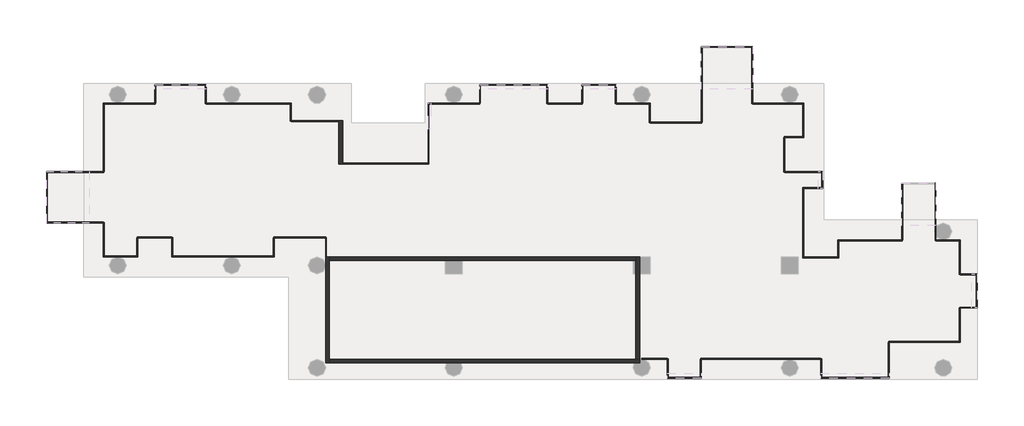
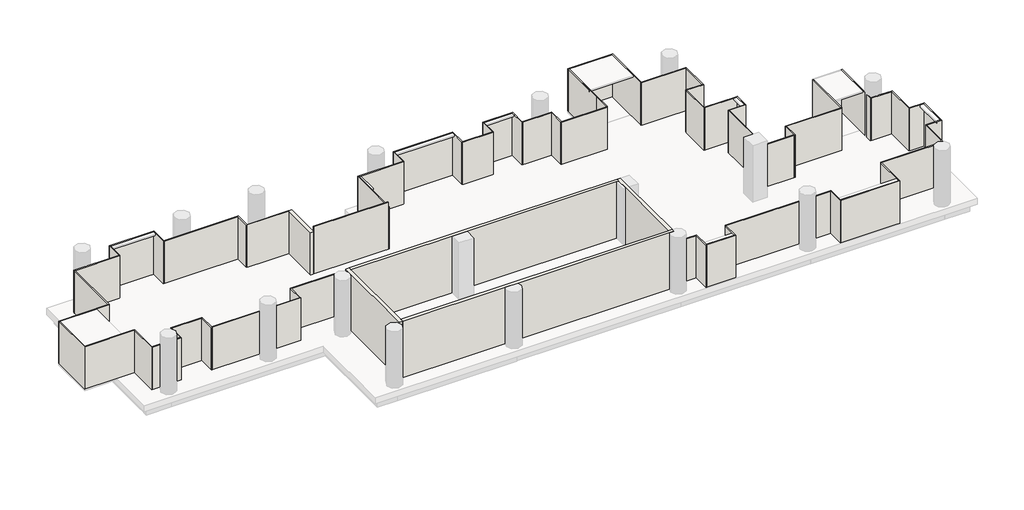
# One storey, part 1 of 2: 70 walls.
"""IFC4 building model written with IfcOpenShell, lengths in millimetres."""

from ifc_helpers import new_model, si_unit, frame, origin, place, context, project, spatial, polyline, outline, extrude, faceted_brep, element, save

model = new_model("IFC4")

# Units and contexts
model_context = context("Model", 3, world=origin())
ifc_project = project(units=[si_unit("LENGTHUNIT", "METRE", prefix="MILLI")], contexts=[model_context])

# Site, building, storey
site = spatial("IfcSite", under=ifc_project)
building = spatial("IfcBuilding", under=site)
storey = spatial("IfcBuildingStorey", under=building, Name="TW-L 16", Elevation=56799.9999686)

# Walls
placement = place(None, origin())
element("IfcWall", 1, ObjectType="AJN-ARC-CONCRETE WALL-20cm", at=placement, inside=storey, context=model_context, shape_type="Brep", body=[
    faceted_brep([(113050.0, 30750.0, 60399.9999686), (113050.0, 30750.0, 56799.9999686), (113050.0, 25150.0, 56799.9999686), (113050.0, 25150.0, 60399.9999686), (113250.0, 30750.0, 56799.9999686), (113250.0, 30750.0, 60399.9999686), (113250.0, 30550.0, 60399.9999686), (113250.0, 25350.0, 60399.9999686), (113250.0, 25150.0, 60399.9999686), (113250.0, 25150.0, 56799.9999686), (113250.0, 25350.0, 56799.9999686), (113250.0, 30550.0, 56799.9999686), (113097.1743518, 30750.0, 56799.9999686)], [[[0, 1, 2, 3]], [[4, 5, 6, 7, 8, 9, 10, 11]], [[2, 1, 12, 4, 11, 10, 9]], [[0, 3, 8, 7, 6, 5]], [[3, 2, 9, 8]], [[0, 5, 4, 12, 1]]]),
])
element("IfcWall", 2, ObjectType="AJN-ARC-CONCRETE WALL-20cm", at=placement, inside=storey, context=model_context, shape_type="Brep", body=[
    faceted_brep([(113250.0, 25150.0, 56799.9999686), (119425.8342613, 25150.0, 56799.9999686), (120174.1657387, 25150.0, 56799.9999686), (129325.8342613, 25150.0, 56799.9999686), (129600.0, 25150.0, 56799.9999686), (129600.0, 25150.0, 60399.9999686), (129325.8342613, 25150.0, 60399.9999686), (120174.1657387, 25150.0, 60399.9999686), (119425.8342613, 25150.0, 60399.9999686), (113250.0, 25150.0, 60399.9999686), (113250.0, 25350.0, 56799.9999686), (113250.0, 25350.0, 60399.9999686), (129400.0, 25350.0, 60399.9999686), (129600.0, 25350.0, 60399.9999686), (129600.0, 25350.0, 56799.9999686), (129400.0, 25350.0, 56799.9999686), (129600.0, 25338.7482194, 56799.9999686), (129600.0, 25338.7482194, 60399.9999686)], [[[0, 1, 2, 3, 4, 5, 6, 7, 8, 9]], [[10, 11, 12, 13, 14, 15]], [[4, 3, 2, 1, 0, 10, 15, 14, 16]], [[9, 8, 7, 6, 5, 17, 13, 12, 11]], [[5, 4, 16, 14, 13, 17]], [[0, 9, 11, 10]]]),
])
element("IfcWall", 3, ObjectType="AJN-ARC-CONCRETE WALL-20cm", at=placement, inside=storey, context=model_context, shape_type="Brep", body=[
    faceted_brep([(129600.0, 25350.0, 56799.9999686), (129600.0, 29850.0, 56799.9999686), (129600.0, 30750.0, 56799.9999686), (129600.0, 30750.0, 60399.9999686), (129600.0, 29850.0, 60399.9999686), (129600.0, 25350.0, 60399.9999686), (129400.0, 25350.0, 56799.9999686), (129400.0, 25350.0, 60399.9999686), (129400.0, 29850.0, 60399.9999686), (129400.0, 30550.0, 60399.9999686), (129400.0, 30750.0, 60399.9999686), (129400.0, 30750.0, 56799.9999686), (129400.0, 30550.0, 56799.9999686), (129400.0, 29850.0, 56799.9999686)], [[[0, 1, 2, 3, 4, 5]], [[6, 7, 8, 9, 10, 11, 12, 13]], [[2, 1, 0, 6, 13, 12, 11]], [[5, 4, 3, 10, 9, 8, 7]], [[3, 2, 11, 10]], [[0, 5, 7, 6]]]),
])
element("IfcWall", 4, ObjectType="AJN-ARC-CONCRETE WALL-20cm", at=placement, inside=storey, context=model_context, shape_type="Brep", body=[
    faceted_brep([(129400.0, 30750.0, 56799.9999686), (113250.0, 30750.0, 56799.9999686), (113250.0, 30750.0, 60399.9999686), (129400.0, 30750.0, 60399.9999686), (129400.0, 30550.0, 56799.9999686), (129400.0, 30550.0, 60399.9999686), (129250.0, 30550.0, 60399.9999686), (120250.0, 30550.0, 60399.9999686), (119350.0, 30550.0, 60399.9999686), (113250.0, 30550.0, 60399.9999686), (113250.0, 30550.0, 56799.9999686), (119350.0, 30550.0, 56799.9999686), (120250.0, 30550.0, 56799.9999686), (129250.0, 30550.0, 56799.9999686)], [[[0, 1, 2, 3]], [[4, 5, 6, 7, 8, 9, 10, 11, 12, 13]], [[1, 0, 4, 13, 12, 11, 10]], [[3, 2, 9, 8, 7, 6, 5]], [[0, 3, 5, 4]], [[1, 10, 9, 2]]]),
])
element("IfcWall", 5, ObjectType="AJN-ARC-CONCRETE WALL-20cm", at=placement, inside=storey, context=model_context, shape_type="Brep", body=[
    faceted_brep([(113950.0, 35650.0, 56799.9999686), (113950.0, 37950.0, 56799.9999686), (113950.0, 37950.0, 59499.9999686), (113950.0, 35650.0, 59499.9999686), (113750.0, 35650.0, 56799.9999686), (113750.0, 35650.0, 59499.9999686), (113750.0, 37900.0, 59499.9999686), (113750.0, 37950.0, 59499.9999686), (113750.0, 37950.0, 56799.9999686), (113750.0, 37900.0, 56799.9999686)], [[[0, 1, 2, 3]], [[4, 5, 6, 7, 8, 9]], [[1, 0, 4, 9, 8]], [[3, 2, 7, 6, 5]], [[0, 3, 5, 4]], [[2, 1, 8, 7]]]),
])
element("IfcWall", 6, ObjectType="AJN-ARC-GLASS-50mm", at=placement, inside=storey, context=model_context, shape_type="SweptSolid", body=[
    extrude(outline(polyline([(111250.0, 37950.0), (113750.0, 37950.0), (113750.0, 37900.0), (111250.0, 37900.0), (111250.0, 37950.0)])), frame((0.0, 0.0, 56799.9999686), z_axis=(0.0, 0.0, 1.0), x_axis=(1.0, 0.0, 0.0)), (0.0, 0.0, 1.0), 2700.0),
])
element("IfcWall", 7, ObjectType="AJN-ARC-GLASS-50mm", at=placement, inside=storey, context=model_context, shape_type="Brep", body=[
    faceted_brep([(111250.0, 37925.0, 56799.9999686), (111250.0, 38850.00036, 56799.9999686), (111250.0, 38850.00036, 59499.9999686), (111250.0, 37925.0, 59499.9999686), (111200.0, 37925.0, 56799.9999686), (111200.0, 37925.0, 59499.9999686), (111200.0, 38800.000356, 59499.9999686), (111200.0, 38850.000356, 59499.9999686), (111200.0, 38850.000356, 56799.9999686), (111200.0, 38800.000356, 56799.9999686)], [[[0, 1, 2, 3]], [[4, 5, 6, 7, 8, 9]], [[1, 0, 4, 9, 8]], [[3, 2, 7, 6, 5]], [[0, 3, 5, 4]], [[2, 1, 8, 7]]]),
])
element("IfcWall", 8, ObjectType="AJN-ARC-GLASS-50mm", at=placement, inside=storey, context=model_context, shape_type="SweptSolid", body=[
    extrude(outline(polyline([(106750.0, 38850.0), (111200.0, 38850.000356), (111200.0, 38800.000356), (106750.000004, 38800.0), (106750.0, 38850.0)])), frame((0.0, 0.0, 56799.9999686), z_axis=(0.0, 0.0, 1.0), x_axis=(1.0, 0.0, 0.0)), (0.0, 0.0, 1.0), 2700.0),
])
element("IfcWall", 9, ObjectType="AJN-ARC-GLASS-50mm", at=placement, inside=storey, context=model_context, shape_type="Brep", body=[
    faceted_brep([(106750.0, 38824.999998, 56799.9999686), (106750.0, 39850.0, 56799.9999686), (106750.0, 39850.0, 59499.9999686), (106750.0, 38824.999998, 59499.9999686), (106700.0, 38824.999998, 56799.9999686), (106700.0, 38824.999998, 59499.9999686), (106700.0, 39800.0, 59499.9999686), (106700.0, 39850.0, 59499.9999686), (106700.0, 39850.0, 56799.9999686), (106700.0, 39800.0, 56799.9999686)], [[[0, 1, 2, 3]], [[4, 5, 6, 7, 8, 9]], [[1, 0, 4, 9, 8]], [[3, 2, 7, 6, 5]], [[0, 3, 5, 4]], [[2, 1, 8, 7]]]),
])
element("IfcWall", 10, ObjectType="AJN-ARC-GLASS-50mm", at=placement, inside=storey, context=model_context, shape_type="Brep", body=[
    faceted_brep([(106700.0, 39850.0, 56799.9999686), (104050.0, 39850.0, 56799.9999686), (104050.0, 39850.0, 59499.9999686), (106700.0, 39850.0, 59499.9999686), (106700.0, 39800.0, 56799.9999686), (106700.0, 39800.0, 59499.9999686), (104100.0, 39800.0, 59499.9999686), (104050.0, 39800.0, 59499.9999686), (104050.0, 39800.0, 56799.9999686), (104100.0, 39800.0, 56799.9999686)], [[[0, 1, 2, 3]], [[4, 5, 6, 7, 8, 9]], [[1, 0, 4, 9, 8]], [[3, 2, 7, 6, 5]], [[2, 1, 8, 7]], [[0, 3, 5, 4]]]),
])
element("IfcWall", 11, ObjectType="AJN-ARC-GLASS-50mm", at=placement, inside=storey, context=model_context, shape_type="SweptSolid", body=[
    extrude(outline(polyline([(104050.0, 38850.0), (104050.0, 39800.0), (104100.0, 39800.0), (104100.0, 38850.0), (104050.0, 38850.0)])), frame((0.0, 0.0, 56799.9999686), z_axis=(0.0, 0.0, 1.0), x_axis=(1.0, 0.0, 0.0)), (0.0, 0.0, 1.0), 2700.0),
])
element("IfcWall", 12, ObjectType="AJN-ARC-GLASS-50mm", at=placement, inside=storey, context=model_context, shape_type="Brep", body=[
    faceted_brep([(104075.0000107, 38849.9999893, 56799.9999686), (101347.1743518, 38850.001152, 56799.9999686), (101347.1743518, 38850.001152, 59499.9999686), (104075.0000107, 38849.9999893, 59499.9999686), (104074.9999893, 38799.9999893, 56799.9999686), (104074.9999893, 38799.9999893, 59499.9999686), (101397.1743518, 38800.0011307, 59499.9999686), (101347.1743518, 38800.001152, 59499.9999686), (101347.1743518, 38800.001152, 56799.9999686), (101397.1743518, 38800.0011307, 56799.9999686)], [[[0, 1, 2, 3]], [[4, 5, 6, 7, 8, 9]], [[1, 0, 4, 9, 8]], [[3, 2, 7, 6, 5]], [[0, 3, 5, 4]], [[2, 1, 8, 7]]]),
])
element("IfcWall", 13, ObjectType="AJN-ARC-GLASS-50mm", at=placement, inside=storey, context=model_context, shape_type="SweptSolid", body=[
    extrude(outline(polyline([(101347.1743518, 35250.0), (101347.1743518, 38800.001152), (101397.1743518, 38800.0011307), (101397.1743518, 35250.0), (101347.1743518, 35250.0)])), frame((0.0, 0.0, 56799.9999686), z_axis=(0.0, 0.0, 1.0), x_axis=(1.0, 0.0, 0.0)), (0.0, 0.0, 1.0), 2700.0),
])
element("IfcWall", 14, ObjectType="AJN-ARC-GLASS-50mm", at=placement, inside=storey, context=model_context, shape_type="Brep", body=[
    faceted_brep([(101372.1743518, 35250.0, 56799.9999686), (98347.1743518, 35250.0, 56799.9999686), (98347.1743518, 35250.0, 59499.9999686), (101372.1743518, 35250.0, 59499.9999686), (101372.1743518, 35200.0, 56799.9999686), (101372.1743518, 35200.0, 59499.9999686), (98397.1743518, 35200.0, 59499.9999686), (98347.1743518, 35200.0, 59499.9999686), (98347.1743518, 35200.0, 56799.9999686), (98397.1743518, 35200.0, 56799.9999686)], [[[0, 1, 2, 3]], [[4, 5, 6, 7, 8, 9]], [[1, 0, 4, 9, 8]], [[3, 2, 7, 6, 5]], [[0, 3, 5, 4]], [[2, 1, 8, 7]]]),
])
element("IfcWall", 15, ObjectType="AJN-ARC-GLASS-50mm", at=placement, inside=storey, context=model_context, shape_type="Brep", body=[
    faceted_brep([(98347.1743518, 35200.0, 56799.9999686), (98347.1743518, 32550.0, 56799.9999686), (98347.1743518, 32550.0, 59499.9999686), (98347.1743518, 35200.0, 59499.9999686), (98397.1743518, 35200.0, 56799.9999686), (98397.1743518, 35200.0, 59499.9999686), (98397.1743518, 32600.0, 59499.9999686), (98397.1743518, 32550.0, 59499.9999686), (98397.1743518, 32550.0, 56799.9999686), (98397.1743518, 32600.0, 56799.9999686)], [[[0, 1, 2, 3]], [[4, 5, 6, 7, 8, 9]], [[1, 0, 4, 9, 8]], [[3, 2, 7, 6, 5]], [[2, 1, 8, 7]], [[0, 3, 5, 4]]]),
])
element("IfcWall", 16, ObjectType="AJN-ARC-GLASS-50mm", at=placement, inside=storey, context=model_context, shape_type="SweptSolid", body=[
    extrude(outline(polyline([(101347.1743518, 32550.0), (98397.1743518, 32550.0), (98397.1743518, 32600.0), (101347.1743518, 32600.0), (101347.1743518, 32550.0)])), frame((0.0, 0.0, 56799.9999686), z_axis=(0.0, 0.0, 1.0), x_axis=(1.0, 0.0, 0.0)), (0.0, 0.0, 1.0), 2700.0),
])
element("IfcWall", 17, ObjectType="AJN-ARC-GLASS-50mm", at=placement, inside=storey, context=model_context, shape_type="Brep", body=[
    faceted_brep([(101347.1743518, 32575.0, 56799.9999686), (101347.1743518, 30750.0, 56799.9999686), (101347.1743518, 30750.0, 59499.9999686), (101347.1743518, 32575.0, 59499.9999686), (101397.1743518, 32575.0, 56799.9999686), (101397.1743518, 32575.0, 59499.9999686), (101397.1743518, 30800.0, 59499.9999686), (101397.1743518, 30750.0, 59499.9999686), (101397.1743518, 30750.0, 56799.9999686), (101397.1743518, 30800.0, 56799.9999686)], [[[0, 1, 2, 3]], [[4, 5, 6, 7, 8, 9]], [[1, 0, 4, 9, 8]], [[3, 2, 7, 6, 5]], [[0, 3, 5, 4]], [[2, 1, 8, 7]]]),
])
element("IfcWall", 18, ObjectType="AJN-ARC-GLASS-50mm", at=placement, inside=storey, context=model_context, shape_type="Brep", body=[
    faceted_brep([(101397.1743518, 30750.0, 56799.9999686), (103147.1743518, 30750.0, 56799.9999686), (103147.1743518, 30750.0, 59499.9999686), (101397.1743518, 30750.0, 59499.9999686), (101397.1743518, 30800.0, 56799.9999686), (101397.1743518, 30800.0, 59499.9999686), (103097.1743518, 30800.0, 59499.9999686), (103147.1743518, 30800.0, 59499.9999686), (103147.1743518, 30800.0, 56799.9999686), (103097.1743518, 30800.0, 56799.9999686)], [[[0, 1, 2, 3]], [[4, 5, 6, 7, 8, 9]], [[1, 0, 4, 9, 8]], [[3, 2, 7, 6, 5]], [[2, 1, 8, 7]], [[0, 3, 5, 4]]]),
])
element("IfcWall", 19, ObjectType="AJN-ARC-GLASS-50mm", at=placement, inside=storey, context=model_context, shape_type="SweptSolid", body=[
    extrude(outline(polyline([(103147.1743518, 31750.0), (103147.1743518, 30800.0), (103097.1743518, 30800.0), (103097.1743518, 31750.0), (103147.1743518, 31750.0)])), frame((0.0, 0.0, 56799.9999686), z_axis=(0.0, 0.0, 1.0), x_axis=(1.0, 0.0, 0.0)), (0.0, 0.0, 1.0), 2700.0),
])
element("IfcWall", 20, ObjectType="AJN-ARC-GLASS-50mm", at=placement, inside=storey, context=model_context, shape_type="SweptSolid", body=[
    extrude(outline(polyline([(104947.1743518, 31750.0), (103122.1743518, 31750.0), (103122.1743518, 31800.0), (104947.1743518, 31800.0), (104947.1743518, 31750.0)])), frame((0.0, 0.0, 56799.9999686), z_axis=(0.0, 0.0, 1.0), x_axis=(1.0, 0.0, 0.0)), (0.0, 0.0, 1.0), 2700.0),
])
element("IfcWall", 21, ObjectType="AJN-ARC-GLASS-50mm", at=placement, inside=storey, context=model_context, shape_type="Brep", body=[
    faceted_brep([(104947.1743518, 31775.0, 56799.9999686), (104947.1743518, 30750.0, 56799.9999686), (104947.1743518, 30750.0, 59499.9999686), (104947.1743518, 31775.0, 59499.9999686), (104997.1743518, 31775.0, 56799.9999686), (104997.1743518, 31775.0, 59499.9999686), (104997.1743518, 30800.0, 59499.9999686), (104997.1743518, 30750.0, 59499.9999686), (104997.1743518, 30750.0, 56799.9999686), (104997.1743518, 30800.0, 56799.9999686)], [[[0, 1, 2, 3]], [[4, 5, 6, 7, 8, 9]], [[1, 0, 4, 9, 8]], [[3, 2, 7, 6, 5]], [[0, 3, 5, 4]], [[2, 1, 8, 7]]]),
])
element("IfcWall", 22, ObjectType="AJN-ARC-GLASS-50mm", at=placement, inside=storey, context=model_context, shape_type="Brep", body=[
    faceted_brep([(104997.1743518, 30750.0, 56799.9999686), (110347.1743518, 30750.0, 56799.9999686), (110347.1743518, 30750.0, 59499.9999686), (104997.1743518, 30750.0, 59499.9999686), (104997.1743518, 30800.0, 56799.9999686), (104997.1743518, 30800.0, 59499.9999686), (110297.1743518, 30800.0, 59499.9999686), (110347.1743518, 30800.0, 59499.9999686), (110347.1743518, 30800.0, 56799.9999686), (110297.1743518, 30800.0, 56799.9999686)], [[[0, 1, 2, 3]], [[4, 5, 6, 7, 8, 9]], [[1, 0, 4, 9, 8]], [[3, 2, 7, 6, 5]], [[2, 1, 8, 7]], [[0, 3, 5, 4]]]),
])
element("IfcWall", 23, ObjectType="AJN-ARC-GLASS-50mm", at=placement, inside=storey, context=model_context, shape_type="SweptSolid", body=[
    extrude(outline(polyline([(110347.1743518, 31750.0), (110347.1743518, 30800.0), (110297.1743518, 30800.0), (110297.1743518, 31750.0), (110347.1743518, 31750.0)])), frame((0.0, 0.0, 56799.9999686), z_axis=(0.0, 0.0, 1.0), x_axis=(1.0, 0.0, 0.0)), (0.0, 0.0, 1.0), 2700.0),
])
element("IfcWall", 24, ObjectType="AJN-ARC-GLASS-50mm", at=placement, inside=storey, context=model_context, shape_type="SweptSolid", body=[
    extrude(outline(polyline([(113047.1743518, 31750.0), (110322.1743518, 31750.0), (110322.1743518, 31800.0), (113047.1743518, 31800.0), (113047.1743518, 31750.0)])), frame((0.0, 0.0, 56799.9999686), z_axis=(0.0, 0.0, 1.0), x_axis=(1.0, 0.0, 0.0)), (0.0, 0.0, 1.0), 2700.0),
])
element("IfcWall", 25, ObjectType="AJN-ARC-GLASS-50mm", at=placement, inside=storey, context=model_context, shape_type="Brep", body=[
    faceted_brep([(113047.1743518, 31775.0, 56799.9999686), (113047.1743518, 30750.0, 56799.9999686), (113047.1743518, 30750.0, 59499.9999686), (113047.1743518, 31775.0, 59499.9999686), (113097.1743518, 31775.0, 56799.9999686), (113097.1743518, 31775.0, 59499.9999686), (113097.1743518, 30750.0, 59499.9999686), (113097.1743518, 30750.0, 56799.9999686), (113050.0, 30750.0, 56799.9999686)], [[[0, 1, 2, 3]], [[4, 5, 6, 7]], [[1, 0, 4, 7, 8]], [[3, 2, 6, 5]], [[0, 3, 5, 4]], [[2, 1, 8, 7, 6]]]),
])
element("IfcWall", 26, ObjectType="AJN-ARC-GLASS-50mm", at=placement, inside=storey, context=model_context, shape_type="Brep", body=[
    faceted_brep([(138250.0, 30700.0, 56799.9999686), (138250.0, 30750.0, 56799.9999686), (138250.0, 34350.0, 56799.9999686), (138250.0, 34350.0, 59499.9999686), (138250.0, 30750.0, 59499.9999686), (138250.0, 30700.0, 59499.9999686), (138200.0, 30700.0, 56799.9999686), (138200.0, 30700.0, 59499.9999686), (138200.0, 34350.0, 59499.9999686), (138200.0, 34350.0, 56799.9999686)], [[[0, 1, 2, 3, 4, 5]], [[6, 7, 8, 9]], [[2, 1, 0, 6, 9]], [[5, 4, 3, 8, 7]], [[0, 5, 7, 6]], [[3, 2, 9, 8]]]),
])
element("IfcWall", 27, ObjectType="AJN-ARC-GLASS-50mm", at=placement, inside=storey, context=model_context, shape_type="Brep", body=[
    faceted_brep([(138200.0, 34350.0, 56799.9999686), (138250.0, 34350.0, 56799.9999686), (139250.0, 34350.0, 56799.9999686), (139250.0, 34350.0, 59499.9999686), (138250.0, 34350.0, 59499.9999686), (138200.0, 34350.0, 59499.9999686), (138200.0, 34400.0, 56799.9999686), (138200.0, 34400.0, 59499.9999686), (139200.0, 34400.0, 59499.9999686), (139250.0, 34400.0, 59499.9999686), (139250.0, 34400.0, 56799.9999686), (139200.0, 34400.0, 56799.9999686)], [[[0, 1, 2, 3, 4, 5]], [[6, 7, 8, 9, 10, 11]], [[2, 1, 0, 6, 11, 10]], [[5, 4, 3, 9, 8, 7]], [[3, 2, 10, 9]], [[0, 5, 7, 6]]]),
])
element("IfcWall", 28, ObjectType="AJN-ARC-GLASS-50mm", at=placement, inside=storey, context=model_context, shape_type="Brep", body=[
    faceted_brep([(139250.0, 34400.0, 56799.9999686), (139250.0, 35250.0, 56799.9999686), (139250.0, 35250.0, 59499.9999686), (139250.0, 34400.0, 59499.9999686), (139200.0, 34400.0, 56799.9999686), (139200.0, 34400.0, 59499.9999686), (139200.0, 35200.0, 59499.9999686), (139200.0, 35250.0, 59499.9999686), (139200.0, 35250.0, 56799.9999686), (139200.0, 35200.0, 56799.9999686)], [[[0, 1, 2, 3]], [[4, 5, 6, 7, 8, 9]], [[1, 0, 4, 9, 8]], [[3, 2, 7, 6, 5]], [[2, 1, 8, 7]], [[0, 3, 5, 4]]]),
])
element("IfcWall", 29, ObjectType="AJN-ARC-GLASS-50mm", at=placement, inside=storey, context=model_context, shape_type="SweptSolid", body=[
    extrude(outline(polyline([(137246.9852535, 35250.0), (139200.0, 35250.0), (139200.0, 35200.0), (137246.9852535, 35200.0), (137246.9852535, 35250.0)])), frame((0.0, 0.0, 56799.9999686), z_axis=(0.0, 0.0, 1.0), x_axis=(1.0, 0.0, 0.0)), (0.0, 0.0, 1.0), 2700.0),
])
element("IfcWall", 30, ObjectType="AJN-ARC-GLASS-50mm", at=placement, inside=storey, context=model_context, shape_type="SweptSolid", body=[
    extrude(outline(polyline([(137246.9852535, 37050.0), (137246.9852535, 35225.0), (137196.9852535, 35225.0), (137196.9852535, 37050.0), (137246.9852535, 37050.0)])), frame((0.0, 0.0, 56799.9999686), z_axis=(0.0, 0.0, 1.0), x_axis=(1.0, 0.0, 0.0)), (0.0, 0.0, 1.0), 2700.0),
])
element("IfcWall", 31, ObjectType="AJN-ARC-GLASS-50mm", at=placement, inside=storey, context=model_context, shape_type="Brep", body=[
    faceted_brep([(137221.9852535, 37050.0, 56799.9999686), (138250.0, 37050.0, 56799.9999686), (138250.0, 37050.0, 59499.9999686), (137221.9852535, 37050.0, 59499.9999686), (137221.9852535, 37100.0, 56799.9999686), (137221.9852535, 37100.0, 59499.9999686), (138200.0, 37100.0, 59499.9999686), (138250.0, 37100.0, 59499.9999686), (138250.0, 37100.0, 56799.9999686), (138200.0, 37100.0, 56799.9999686)], [[[0, 1, 2, 3]], [[4, 5, 6, 7, 8, 9]], [[1, 0, 4, 9, 8]], [[3, 2, 7, 6, 5]], [[0, 3, 5, 4]], [[2, 1, 8, 7]]]),
])
element("IfcWall", 32, ObjectType="AJN-ARC-GLASS-50mm", at=placement, inside=storey, context=model_context, shape_type="Brep", body=[
    faceted_brep([(138250.0, 37100.0, 56799.9999686), (138250.0, 38850.0, 56799.9999686), (138250.0, 38850.0, 59499.9999686), (138250.0, 37100.0, 59499.9999686), (138200.0, 37100.0, 56799.9999686), (138200.0, 37100.0, 59499.9999686), (138200.0, 38800.0, 59499.9999686), (138200.0, 38850.0, 59499.9999686), (138200.0, 38850.0, 56799.9999686), (138200.0, 38800.0, 56799.9999686)], [[[0, 1, 2, 3]], [[4, 5, 6, 7, 8, 9]], [[1, 0, 4, 9, 8]], [[3, 2, 7, 6, 5]], [[2, 1, 8, 7]], [[0, 3, 5, 4]]]),
])
element("IfcWall", 33, ObjectType="AJN-ARC-GLASS-50mm", at=placement, inside=storey, context=model_context, shape_type="SweptSolid", body=[
    extrude(outline(polyline([(135550.0, 38850.0), (138200.0, 38850.0), (138200.0, 38800.0), (135550.0, 38800.0), (135550.0, 38850.0)])), frame((0.0, 0.0, 56799.9999686), z_axis=(0.0, 0.0, 1.0), x_axis=(1.0, 0.0, 0.0)), (0.0, 0.0, 1.0), 2700.0),
])
element("IfcWall", 34, ObjectType="AJN-ARC-GLASS-50mm", at=placement, inside=storey, context=model_context, shape_type="Brep", body=[
    faceted_brep([(135550.0, 38825.0, 56799.9999686), (135550.0, 41850.0, 56799.9999686), (135550.0, 41850.0, 59499.9999686), (135550.0, 38825.0, 59499.9999686), (135500.0, 38825.0, 56799.9999686), (135500.0, 38825.0, 59499.9999686), (135500.0, 41800.0, 59499.9999686), (135500.0, 41850.0, 59499.9999686), (135500.0, 41850.0, 56799.9999686), (135500.0, 41800.0, 56799.9999686)], [[[0, 1, 2, 3]], [[4, 5, 6, 7, 8, 9]], [[1, 0, 4, 9, 8]], [[3, 2, 7, 6, 5]], [[0, 3, 5, 4]], [[2, 1, 8, 7]]]),
])
element("IfcWall", 35, ObjectType="AJN-ARC-GLASS-50mm", at=placement, inside=storey, context=model_context, shape_type="Brep", body=[
    faceted_brep([(135500.0, 41850.0, 56799.9999686), (132850.0, 41850.0, 56799.9999686), (132850.0, 41850.0, 59499.9999686), (135500.0, 41850.0, 59499.9999686), (135500.0, 41800.0, 56799.9999686), (135500.0, 41800.0, 59499.9999686), (132900.0, 41800.0, 59499.9999686), (132850.0, 41800.0, 59499.9999686), (132850.0, 41800.0, 56799.9999686), (132900.0, 41800.0, 56799.9999686)], [[[0, 1, 2, 3]], [[4, 5, 6, 7, 8, 9]], [[1, 0, 4, 9, 8]], [[3, 2, 7, 6, 5]], [[2, 1, 8, 7]], [[0, 3, 5, 4]]]),
])
element("IfcWall", 36, ObjectType="AJN-ARC-GLASS-50mm", at=placement, inside=storey, context=model_context, shape_type="SweptSolid", body=[
    extrude(outline(polyline([(132850.0, 38850.0), (132850.0, 41800.0), (132900.0, 41800.0), (132900.0, 38850.0), (132850.0, 38850.0)])), frame((0.0, 0.0, 56799.9999686), z_axis=(0.0, 0.0, 1.0), x_axis=(1.0, 0.0, 0.0)), (0.0, 0.0, 1.0), 2700.0),
])
element("IfcWall", 37, ObjectType="AJN-ARC-GLASS-50mm", at=placement, inside=storey, context=model_context, shape_type="SweptSolid", body=[
    extrude(outline(polyline([(132850.0, 37850.0), (132850.0, 38850.0), (132900.0, 38850.0), (132900.0, 37850.0), (132850.0, 37850.0)])), frame((0.0, 0.0, 56799.9999686), z_axis=(0.0, 0.0, 1.0), x_axis=(1.0, 0.0, 0.0)), (0.0, 0.0, 1.0), 2700.0),
])
element("IfcWall", 38, ObjectType="AJN-ARC-GLASS-50mm", at=placement, inside=storey, context=model_context, shape_type="SweptSolid", body=[
    extrude(outline(polyline([(130150.0, 37850.0), (132875.0, 37850.0), (132875.0, 37800.0), (130150.0, 37800.0), (130150.0, 37850.0)])), frame((0.0, 0.0, 56799.9999686), z_axis=(0.0, 0.0, 1.0), x_axis=(1.0, 0.0, 0.0)), (0.0, 0.0, 1.0), 2700.0),
])
element("IfcWall", 39, ObjectType="AJN-ARC-GLASS-50mm", at=placement, inside=storey, context=model_context, shape_type="Brep", body=[
    faceted_brep([(130150.0, 37825.0, 56799.9999686), (130150.0, 38850.0, 56799.9999686), (130150.0, 38850.0, 59499.9999686), (130150.0, 37825.0, 59499.9999686), (130100.0, 37825.0, 56799.9999686), (130100.0, 37825.0, 59499.9999686), (130100.0, 38800.0, 59499.9999686), (130100.0, 38850.0, 59499.9999686), (130100.0, 38850.0, 56799.9999686), (130100.0, 38800.0, 56799.9999686)], [[[0, 1, 2, 3]], [[4, 5, 6, 7, 8, 9]], [[1, 0, 4, 9, 8]], [[3, 2, 7, 6, 5]], [[0, 3, 5, 4]], [[2, 1, 8, 7]]]),
])
element("IfcWall", 40, ObjectType="AJN-ARC-GLASS-50mm", at=placement, inside=storey, context=model_context, shape_type="SweptSolid", body=[
    extrude(outline(polyline([(128357.0344085, 38850.0), (130100.0, 38850.0), (130100.0, 38800.0), (128357.0344085, 38800.0), (128357.0344085, 38850.0)])), frame((0.0, 0.0, 56799.9999686), z_axis=(0.0, 0.0, 1.0), x_axis=(1.0, 0.0, 0.0)), (0.0, 0.0, 1.0), 2700.0),
])
element("IfcWall", 41, ObjectType="AJN-ARC-GLASS-50mm", at=placement, inside=storey, context=model_context, shape_type="Brep", body=[
    faceted_brep([(128357.0344085, 38825.0, 56799.9999686), (128357.0344085, 39850.0, 56799.9999686), (128357.0344085, 39850.0, 59499.9999686), (128357.0344085, 38825.0, 59499.9999686), (128307.0344085, 38825.0, 56799.9999686), (128307.0344085, 38825.0, 59499.9999686), (128307.0344085, 39800.0, 59499.9999686), (128307.0344085, 39850.0, 59499.9999686), (128307.0344085, 39850.0, 56799.9999686), (128307.0344085, 39800.0, 56799.9999686)], [[[0, 1, 2, 3]], [[4, 5, 6, 7, 8, 9]], [[1, 0, 4, 9, 8]], [[3, 2, 7, 6, 5]], [[0, 3, 5, 4]], [[2, 1, 8, 7]]]),
])
element("IfcWall", 42, ObjectType="AJN-ARC-GLASS-50mm", at=placement, inside=storey, context=model_context, shape_type="Brep", body=[
    faceted_brep([(128307.0344085, 39850.0, 56799.9999686), (126557.0344085, 39850.0, 56799.9999686), (126557.0344085, 39850.0, 59499.9999686), (128307.0344085, 39850.0, 59499.9999686), (128307.0344085, 39800.0, 56799.9999686), (128307.0344085, 39800.0, 59499.9999686), (126607.0344085, 39800.0, 59499.9999686), (126557.0344085, 39800.0, 59499.9999686), (126557.0344085, 39800.0, 56799.9999686), (126607.0344085, 39800.0, 56799.9999686)], [[[0, 1, 2, 3]], [[4, 5, 6, 7, 8, 9]], [[1, 0, 4, 9, 8]], [[3, 2, 7, 6, 5]], [[2, 1, 8, 7]], [[0, 3, 5, 4]]]),
])
element("IfcWall", 43, ObjectType="AJN-ARC-GLASS-50mm", at=placement, inside=storey, context=model_context, shape_type="SweptSolid", body=[
    extrude(outline(polyline([(126557.0344085, 38850.0), (126557.0344085, 39800.0), (126607.0344085, 39800.0), (126607.0344085, 38850.0), (126557.0344085, 38850.0)])), frame((0.0, 0.0, 56799.9999686), z_axis=(0.0, 0.0, 1.0), x_axis=(1.0, 0.0, 0.0)), (0.0, 0.0, 1.0), 2700.0),
])
element("IfcWall", 44, ObjectType="AJN-ARC-GLASS-50mm", at=placement, inside=storey, context=model_context, shape_type="SweptSolid", body=[
    extrude(outline(polyline([(124761.0540705, 38850.0), (126582.0344085, 38850.0), (126582.0344085, 38800.0), (124761.0540705, 38800.0), (124761.0540705, 38850.0)])), frame((0.0, 0.0, 56799.9999686), z_axis=(0.0, 0.0, 1.0), x_axis=(1.0, 0.0, 0.0)), (0.0, 0.0, 1.0), 2700.0),
])
element("IfcWall", 45, ObjectType="AJN-ARC-GLASS-50mm", at=placement, inside=storey, context=model_context, shape_type="Brep", body=[
    faceted_brep([(124761.0540705, 38825.0, 56799.9999686), (124761.0540705, 39850.0, 56799.9999686), (124761.0540705, 39850.0, 59499.9999686), (124761.0540705, 38825.0, 59499.9999686), (124711.0540705, 38825.0, 56799.9999686), (124711.0540705, 38825.0, 59499.9999686), (124711.0540705, 39800.0, 59499.9999686), (124711.0540705, 39850.0, 59499.9999686), (124711.0540705, 39850.0, 56799.9999686), (124711.0540705, 39800.0, 56799.9999686)], [[[0, 1, 2, 3]], [[4, 5, 6, 7, 8, 9]], [[1, 0, 4, 9, 8]], [[3, 2, 7, 6, 5]], [[0, 3, 5, 4]], [[2, 1, 8, 7]]]),
])
element("IfcWall", 46, ObjectType="AJN-ARC-GLASS-50mm", at=placement, inside=storey, context=model_context, shape_type="Brep", body=[
    faceted_brep([(124711.0540705, 39850.0, 56799.9999686), (121161.0540705, 39850.0, 56799.9999686), (121161.0540705, 39850.0, 59499.9999686), (124711.0540705, 39850.0, 59499.9999686), (124711.0540705, 39800.0, 56799.9999686), (124711.0540705, 39800.0, 59499.9999686), (121211.0540705, 39800.0, 59499.9999686), (121161.0540705, 39800.0, 59499.9999686), (121161.0540705, 39800.0, 56799.9999686), (121211.0540705, 39800.0, 56799.9999686)], [[[0, 1, 2, 3]], [[4, 5, 6, 7, 8, 9]], [[1, 0, 4, 9, 8]], [[3, 2, 7, 6, 5]], [[2, 1, 8, 7]], [[0, 3, 5, 4]]]),
])
element("IfcWall", 47, ObjectType="AJN-ARC-GLASS-50mm", at=placement, inside=storey, context=model_context, shape_type="SweptSolid", body=[
    extrude(outline(polyline([(121161.0540705, 38850.0), (121161.0540705, 39800.0), (121211.0540705, 39800.0), (121211.0540705, 38850.0), (121161.0540705, 38850.0)])), frame((0.0, 0.0, 56799.9999686), z_axis=(0.0, 0.0, 1.0), x_axis=(1.0, 0.0, 0.0)), (0.0, 0.0, 1.0), 2700.0),
])
element("IfcWall", 48, ObjectType="AJN-ARC-GLASS-50mm", at=placement, inside=storey, context=model_context, shape_type="Brep", body=[
    faceted_brep([(121186.0540705, 38850.0, 56799.9999686), (118450.0, 38850.0, 56799.9999686), (118450.0, 38850.0, 59499.9999686), (121186.0540705, 38850.0, 59499.9999686), (121186.0540705, 38800.0, 56799.9999686), (121186.0540705, 38800.0, 59499.9999686), (118500.0, 38800.0, 59499.9999686), (118450.0, 38800.0, 59499.9999686), (118450.0, 38800.0, 56799.9999686), (118500.0, 38800.0, 56799.9999686)], [[[0, 1, 2, 3]], [[4, 5, 6, 7, 8, 9]], [[1, 0, 4, 9, 8]], [[3, 2, 7, 6, 5]], [[0, 3, 5, 4]], [[2, 1, 8, 7]]]),
])
element("IfcWall", 49, ObjectType="AJN-ARC-GLASS-50mm", at=placement, inside=storey, context=model_context, shape_type="SweptSolid", body=[
    extrude(outline(polyline([(131050.3663867, 25350.0), (129714.068817, 25350.0), (129714.068817, 25400.0), (131050.3663867, 25400.0), (131050.3663867, 25350.0)])), frame((0.0, 0.0, 56799.9999686), z_axis=(0.0, 0.0, 1.0), x_axis=(1.0, 0.0, 0.0)), (0.0, 0.0, 1.0), 2700.0),
])
element("IfcWall", 50, ObjectType="AJN-ARC-GLASS-50mm", at=placement, inside=storey, context=model_context, shape_type="Brep", body=[
    faceted_brep([(131050.3663867, 25375.0, 56799.9999686), (131050.3663867, 24350.0, 56799.9999686), (131050.3663867, 24350.0, 59499.9999686), (131050.3663867, 25375.0, 59499.9999686), (131100.3663867, 25375.0, 56799.9999686), (131100.3663867, 25375.0, 59499.9999686), (131100.3663867, 24400.0, 59499.9999686), (131100.3663867, 24350.0, 59499.9999686), (131100.3663867, 24350.0, 56799.9999686), (131100.3663867, 24400.0, 56799.9999686)], [[[0, 1, 2, 3]], [[4, 5, 6, 7, 8, 9]], [[1, 0, 4, 9, 8]], [[3, 2, 7, 6, 5]], [[0, 3, 5, 4]], [[2, 1, 8, 7]]]),
])
element("IfcWall", 51, ObjectType="AJN-ARC-GLASS-50mm", at=placement, inside=storey, context=model_context, shape_type="Brep", body=[
    faceted_brep([(131100.3663867, 24350.0, 56799.9999686), (132850.3663867, 24350.0, 56799.9999686), (132850.3663867, 24350.0, 59499.9999686), (131100.3663867, 24350.0, 59499.9999686), (131100.3663867, 24400.0, 56799.9999686), (131100.3663867, 24400.0, 59499.9999686), (132800.3663867, 24400.0, 59499.9999686), (132850.3663867, 24400.0, 59499.9999686), (132850.3663867, 24400.0, 56799.9999686), (132800.3663867, 24400.0, 56799.9999686)], [[[0, 1, 2, 3]], [[4, 5, 6, 7, 8, 9]], [[1, 0, 4, 9, 8]], [[3, 2, 7, 6, 5]], [[2, 1, 8, 7]], [[0, 3, 5, 4]]]),
])
element("IfcWall", 52, ObjectType="AJN-ARC-GLASS-50mm", at=placement, inside=storey, context=model_context, shape_type="SweptSolid", body=[
    extrude(outline(polyline([(132850.3663867, 25350.0), (132850.3663867, 24400.0), (132800.3663867, 24400.0), (132800.3663867, 25350.0), (132850.3663867, 25350.0)])), frame((0.0, 0.0, 56799.9999686), z_axis=(0.0, 0.0, 1.0), x_axis=(1.0, 0.0, 0.0)), (0.0, 0.0, 1.0), 2700.0),
])
element("IfcWall", 53, ObjectType="AJN-ARC-GLASS-50mm", at=placement, inside=storey, context=model_context, shape_type="SweptSolid", body=[
    extrude(outline(polyline([(139150.4383953, 25350.0), (132825.3663867, 25350.0), (132825.3663867, 25400.0), (139150.4383953, 25400.0), (139150.4383953, 25350.0)])), frame((0.0, 0.0, 56799.9999686), z_axis=(0.0, 0.0, 1.0), x_axis=(1.0, 0.0, 0.0)), (0.0, 0.0, 1.0), 2700.0),
])
element("IfcWall", 54, ObjectType="AJN-ARC-GLASS-50mm", at=placement, inside=storey, context=model_context, shape_type="Brep", body=[
    faceted_brep([(139150.4383953, 25375.0, 56799.9999686), (139150.4383953, 24350.0, 56799.9999686), (139150.4383953, 24350.0, 59499.9999686), (139150.4383953, 25375.0, 59499.9999686), (139200.4383953, 25375.0, 56799.9999686), (139200.4383953, 25375.0, 59499.9999686), (139200.4383953, 24400.0, 59499.9999686), (139200.4383953, 24350.0, 59499.9999686), (139200.4383953, 24350.0, 56799.9999686), (139200.4383953, 24400.0, 56799.9999686)], [[[0, 1, 2, 3]], [[4, 5, 6, 7, 8, 9]], [[1, 0, 4, 9, 8]], [[3, 2, 7, 6, 5]], [[0, 3, 5, 4]], [[2, 1, 8, 7]]]),
])
element("IfcWall", 55, ObjectType="AJN-ARC-GLASS-50mm", at=placement, inside=storey, context=model_context, shape_type="Brep", body=[
    faceted_brep([(139200.4383953, 24350.0, 56799.9999686), (142750.4383953, 24350.0, 56799.9999686), (142750.4383953, 24350.0, 59499.9999686), (139200.4383953, 24350.0, 59499.9999686), (139200.4383953, 24400.0, 56799.9999686), (139200.4383953, 24400.0, 59499.9999686), (142700.4383953, 24400.0, 59499.9999686), (142750.4383953, 24400.0, 59499.9999686), (142750.4383953, 24400.0, 56799.9999686), (142700.4383953, 24400.0, 56799.9999686)], [[[0, 1, 2, 3]], [[4, 5, 6, 7, 8, 9]], [[1, 0, 4, 9, 8]], [[3, 2, 7, 6, 5]], [[2, 1, 8, 7]], [[0, 3, 5, 4]]]),
])
element("IfcWall", 56, ObjectType="AJN-ARC-GLASS-50mm", at=placement, inside=storey, context=model_context, shape_type="SweptSolid", body=[
    extrude(outline(polyline([(142750.4383953, 26250.0), (142750.4383953, 24400.0), (142700.4383953, 24400.0), (142700.4383953, 26250.0), (142750.4383953, 26250.0)])), frame((0.0, 0.0, 56799.9999686), z_axis=(0.0, 0.0, 1.0), x_axis=(1.0, 0.0, 0.0)), (0.0, 0.0, 1.0), 2700.0),
])
element("IfcWall", 57, ObjectType="AJN-ARC-GLASS-50mm", at=placement, inside=storey, context=model_context, shape_type="Brep", body=[
    faceted_brep([(142725.4383953, 26250.0, 56799.9999686), (146497.681474, 26250.0, 56799.9999686), (146497.681474, 26250.0, 59499.9999686), (142725.4383953, 26250.0, 59499.9999686), (142725.4383953, 26300.0, 56799.9999686), (142725.4383953, 26300.0, 59499.9999686), (146447.681474, 26300.0, 59499.9999686), (146497.681474, 26300.0, 59499.9999686), (146497.681474, 26300.0, 56799.9999686), (146447.681474, 26300.0, 56799.9999686)], [[[0, 1, 2, 3]], [[4, 5, 6, 7, 8, 9]], [[1, 0, 4, 9, 8]], [[3, 2, 7, 6, 5]], [[0, 3, 5, 4]], [[2, 1, 8, 7]]]),
])
element("IfcWall", 58, ObjectType="AJN-ARC-GLASS-50mm", at=placement, inside=storey, context=model_context, shape_type="SweptSolid", body=[
    extrude(outline(polyline([(146497.681474, 28048.7282176), (146497.681474, 26300.0), (146447.681474, 26300.0), (146447.681474, 28048.7282176), (146497.681474, 28048.7282176)])), frame((0.0, 0.0, 56799.9999686), z_axis=(0.0, 0.0, 1.0), x_axis=(1.0, 0.0, 0.0)), (0.0, 0.0, 1.0), 2700.0),
])
element("IfcWall", 59, ObjectType="AJN-ARC-GLASS-50mm", at=placement, inside=storey, context=model_context, shape_type="Brep", body=[
    faceted_brep([(146472.681474, 28048.7282176, 56799.9999686), (147397.681474, 28048.7282176, 56799.9999686), (147397.681474, 28048.7282176, 59499.9999686), (146472.681474, 28048.7282176, 59499.9999686), (146472.681474, 28098.7282176, 56799.9999686), (146472.681474, 28098.7282176, 59499.9999686), (147347.681474, 28098.7282176, 59499.9999686), (147397.681474, 28098.7282176, 59499.9999686), (147397.681474, 28098.7282176, 56799.9999686), (147347.681474, 28098.7282176, 56799.9999686)], [[[0, 1, 2, 3]], [[4, 5, 6, 7, 8, 9]], [[1, 0, 4, 9, 8]], [[3, 2, 7, 6, 5]], [[0, 3, 5, 4]], [[2, 1, 8, 7]]]),
])
element("IfcWall", 60, ObjectType="AJN-ARC-GLASS-50mm", at=placement, inside=storey, context=model_context, shape_type="Brep", body=[
    faceted_brep([(147397.681474, 28098.7282176, 56799.9999686), (147397.681474, 29848.7282176, 56799.9999686), (147397.681474, 29848.7282176, 59499.9999686), (147397.681474, 28098.7282176, 59499.9999686), (147347.681474, 28098.7282176, 56799.9999686), (147347.681474, 28098.7282176, 59499.9999686), (147347.681474, 29798.7282176, 59499.9999686), (147347.681474, 29848.7282176, 59499.9999686), (147347.681474, 29848.7282176, 56799.9999686), (147347.681474, 29798.7282176, 56799.9999686)], [[[0, 1, 2, 3]], [[4, 5, 6, 7, 8, 9]], [[1, 0, 4, 9, 8]], [[3, 2, 7, 6, 5]], [[2, 1, 8, 7]], [[0, 3, 5, 4]]]),
])
element("IfcWall", 61, ObjectType="AJN-ARC-GLASS-50mm", at=placement, inside=storey, context=model_context, shape_type="SweptSolid", body=[
    extrude(outline(polyline([(146497.681474, 29848.7282176), (147347.681474, 29848.7282176), (147347.681474, 29798.7282176), (146497.681474, 29798.7282176), (146497.681474, 29848.7282176)])), frame((0.0, 0.0, 56799.9999686), z_axis=(0.0, 0.0, 1.0), x_axis=(1.0, 0.0, 0.0)), (0.0, 0.0, 1.0), 2700.0),
])
element("IfcWall", 62, ObjectType="AJN-ARC-GLASS-50mm", at=placement, inside=storey, context=model_context, shape_type="Brep", body=[
    faceted_brep([(146497.681474, 29823.7282176, 56799.9999686), (146497.681474, 31651.6593424, 56799.9999686), (146497.681474, 31651.6593424, 59499.9999686), (146497.681474, 29823.7282176, 59499.9999686), (146447.681474, 29823.7282176, 56799.9999686), (146447.681474, 29823.7282176, 59499.9999686), (146447.681474, 31601.6593424, 59499.9999686), (146447.681474, 31651.6593424, 59499.9999686), (146447.681474, 31651.6593424, 56799.9999686), (146447.681474, 31601.6593424, 56799.9999686)], [[[0, 1, 2, 3]], [[4, 5, 6, 7, 8, 9]], [[1, 0, 4, 9, 8]], [[3, 2, 7, 6, 5]], [[0, 3, 5, 4]], [[2, 1, 8, 7]]]),
])
element("IfcWall", 63, ObjectType="AJN-ARC-GLASS-50mm", at=placement, inside=storey, context=model_context, shape_type="Brep", body=[
    faceted_brep([(146447.681474, 31651.6593424, 56799.9999686), (145638.6089983, 31651.6593424, 56799.9999686), (145561.3910017, 31651.6593424, 56799.9999686), (145214.068817, 31651.6593424, 56799.9999686), (145214.068817, 31651.6593424, 59499.9999686), (145561.3910017, 31651.6593424, 59499.9999686), (145638.6089983, 31651.6593424, 59499.9999686), (146447.681474, 31651.6593424, 59499.9999686), (146447.681474, 31601.6593424, 56799.9999686), (146447.681474, 31601.6593424, 59499.9999686), (145214.068817, 31601.6593424, 59499.9999686), (145214.068817, 31601.6593424, 56799.9999686)], [[[0, 1, 2, 3, 4, 5, 6, 7]], [[8, 9, 10, 11]], [[3, 2, 1, 0, 8, 11]], [[4, 3, 11, 10]], [[7, 6, 5, 4, 10, 9]], [[0, 7, 9, 8]]]),
])
element("IfcWall", 64, ObjectType="AJN-ARC-GLASS-50mm", at=placement, inside=storey, context=model_context, shape_type="Brep", body=[
    faceted_brep([(145214.068817, 31626.6593424, 56799.9999686), (145214.068817, 31868.5758828, 56799.9999686), (145214.068817, 32331.4241172, 56799.9999686), (145214.068817, 34651.6593424, 56799.9999686), (145214.068817, 34651.6593424, 59499.9999686), (145214.068817, 32331.4241172, 59499.9999686), (145214.068817, 31868.5758828, 59499.9999686), (145214.068817, 31626.6593424, 59499.9999686), (145164.068817, 31626.6593424, 56799.9999686), (145164.068817, 31626.6593424, 59499.9999686), (145164.068817, 31988.3576975, 59499.9999686), (145164.068817, 32211.6423025, 59499.9999686), (145164.068817, 34601.6593424, 59499.9999686), (145164.068817, 34651.6593424, 59499.9999686), (145164.068817, 34651.6593424, 56799.9999686), (145164.068817, 34601.6593424, 56799.9999686), (145164.068817, 32211.6423025, 56799.9999686), (145164.068817, 31988.3576975, 56799.9999686)], [[[0, 1, 2, 3, 4, 5, 6, 7]], [[8, 9, 10, 11, 12, 13, 14, 15, 16, 17]], [[3, 2, 1, 0, 8, 17, 16, 15, 14]], [[7, 6, 5, 4, 13, 12, 11, 10, 9]], [[0, 7, 9, 8]], [[4, 3, 14, 13]]]),
])
element("IfcWall", 65, ObjectType="AJN-ARC-GLASS-50mm", at=placement, inside=storey, context=model_context, shape_type="SweptSolid", body=[
    extrude(outline(polyline([(143414.068817, 31651.6593424), (143414.068817, 34601.6593424), (143464.068817, 34601.6593424), (143464.068817, 31651.6593424), (143414.068817, 31651.6593424)])), frame((0.0, 0.0, 56799.9999686), z_axis=(0.0, 0.0, 1.0), x_axis=(1.0, 0.0, 0.0)), (0.0, 0.0, 1.0), 2700.0),
])
element("IfcWall", 66, ObjectType="AJN-ARC-GLASS-50mm", at=placement, inside=storey, context=model_context, shape_type="Brep", body=[
    faceted_brep([(143439.068817, 31651.6593424, 56799.9999686), (140050.0, 31651.6593424, 56799.9999686), (140050.0, 31651.6593424, 59499.9999686), (143439.068817, 31651.6593424, 59499.9999686), (143439.068817, 31601.6593424, 56799.9999686), (143439.068817, 31601.6593424, 59499.9999686), (140100.0, 31601.6593424, 59499.9999686), (140050.0, 31601.6593424, 59499.9999686), (140050.0, 31601.6593424, 56799.9999686), (140100.0, 31601.6593424, 56799.9999686)], [[[0, 1, 2, 3]], [[4, 5, 6, 7, 8, 9]], [[1, 0, 4, 9, 8]], [[3, 2, 7, 6, 5]], [[0, 3, 5, 4]], [[2, 1, 8, 7]]]),
])
element("IfcWall", 67, ObjectType="AJN-ARC-GLASS-50mm", at=placement, inside=storey, context=model_context, shape_type="Brep", body=[
    faceted_brep([(140050.0, 31601.6593424, 56799.9999686), (140050.0, 30750.0, 56799.9999686), (140050.0, 30700.0, 56799.9999686), (140050.0, 30700.0, 59499.9999686), (140050.0, 30750.0, 59499.9999686), (140050.0, 31601.6593424, 59499.9999686), (140100.0, 31601.6593424, 56799.9999686), (140100.0, 31601.6593424, 59499.9999686), (140100.0, 30700.0, 59499.9999686), (140100.0, 30700.0, 56799.9999686)], [[[0, 1, 2, 3, 4, 5]], [[6, 7, 8, 9]], [[2, 1, 0, 6, 9]], [[5, 4, 3, 8, 7]], [[0, 5, 7, 6]], [[3, 2, 9, 8]]]),
])
element("IfcWall", 68, ObjectType="AJN-ARC-GLASS-50mm", at=placement, inside=storey, context=model_context, shape_type="SweptSolid", body=[
    extrude(outline(polyline([(138250.0, 30750.0), (140050.0, 30750.0), (140050.0, 30700.0), (138250.0, 30700.0), (138250.0, 30750.0)])), frame((0.0, 0.0, 56799.9999686), z_axis=(0.0, 0.0, 1.0), x_axis=(1.0, 0.0, 0.0)), (0.0, 0.0, 1.0), 2700.0),
])
element("IfcWall", 69, ObjectType="AJN-ARC-GLASS-50mm", at=placement, inside=storey, context=model_context, shape_type="SweptSolid", body=[
    extrude(outline(polyline([(118450.0, 35650.0), (118450.0, 38800.0), (118500.0, 38800.0), (118500.0, 35650.0), (118450.0, 35650.0)])), frame((0.0, 0.0, 56799.9999686), z_axis=(0.0, 0.0, 1.0), x_axis=(1.0, 0.0, 0.0)), (0.0, 0.0, 1.0), 2700.0),
])
element("IfcWall", 70, ObjectType="AJN-ARC-GLASS-50mm", at=placement, inside=storey, context=model_context, shape_type="SweptSolid", body=[
    extrude(outline(polyline([(118450.0, 35650.0), (113950.0, 35650.0), (113950.0, 35700.0), (118450.0, 35700.0), (118450.0, 35650.0)])), frame((0.0, 0.0, 56799.9999686), z_axis=(0.0, 0.0, 1.0), x_axis=(1.0, 0.0, 0.0)), (0.0, 0.0, 1.0), 3000.0),
])

save(model, "model.ifc")
